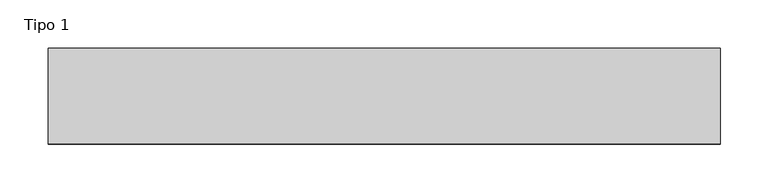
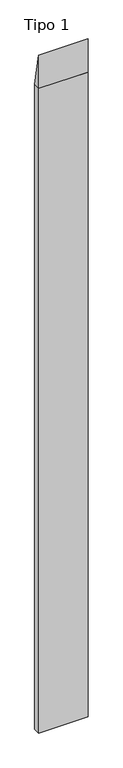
"""IFC4 building model written with IfcOpenShell, lengths in millimetres: proxy geometry, ARQ-MU-EXT-Lad : Tipo 1."""

from ifc_helpers import new_model, si_unit, frame, origin, place, context, project, spatial, polyline, outline, extrude, source, transform, mapped, element, save


def tipo_1_766e241a(model_context):
    return source(origin(), model_context, "Body", "SweptSolid", [
        extrude(outline(polyline([(290.0, 500.0), (390.0, 0.0), (290.0, 0.0), (290.0, 500.0)])), frame((-225.0, 0.0, 0.0), z_axis=(1.0, 0.0, 0.0), x_axis=(0.0, 1.0, 0.0)), (0.0, 0.0, 1.0), 700.0),
        extrude(outline(polyline([(-225.0, 390.0), (475.0, 390.0), (475.0, 290.0), (-225.0, 290.0), (-225.0, 390.0)])), frame((0.0, 0.0, -9700.0), z_axis=(0.0, 0.0, 1.0), x_axis=(1.0, 0.0, 0.0)), (0.0, 0.0, 1.0), 9700.0),
    ])


if __name__ == "__main__":
    model = new_model("IFC4")
    model_context = context("Model", 3, world=origin())
    ifc_project = project(units=[si_unit("LENGTHUNIT", "METRE", prefix="MILLI")], contexts=[model_context])
    site = spatial("IfcSite", under=ifc_project)
    building = spatial("IfcBuilding", under=site)
    placement = place(None, origin())
    tipo_1_shape = tipo_1_766e241a(model_context)
    element("IfcBuildingElementProxy", 1, Name="ARQ-MU-EXT-Lad : Tipo 1", ObjectType="ARQ-MU-EXT-Lad : Tipo 1", at=placement, inside=building, context=model_context, shape_type="MappedRepresentation", body=[
        mapped(tipo_1_shape, transform((0.0, 0.0, 0.0), x_axis=(1.0, 0.0, 0.0), y_axis=(0.0, 1.0, 0.0), z_axis=(0.0, 0.0, 1.0))),
    ])
    save(model, "model.ifc")
